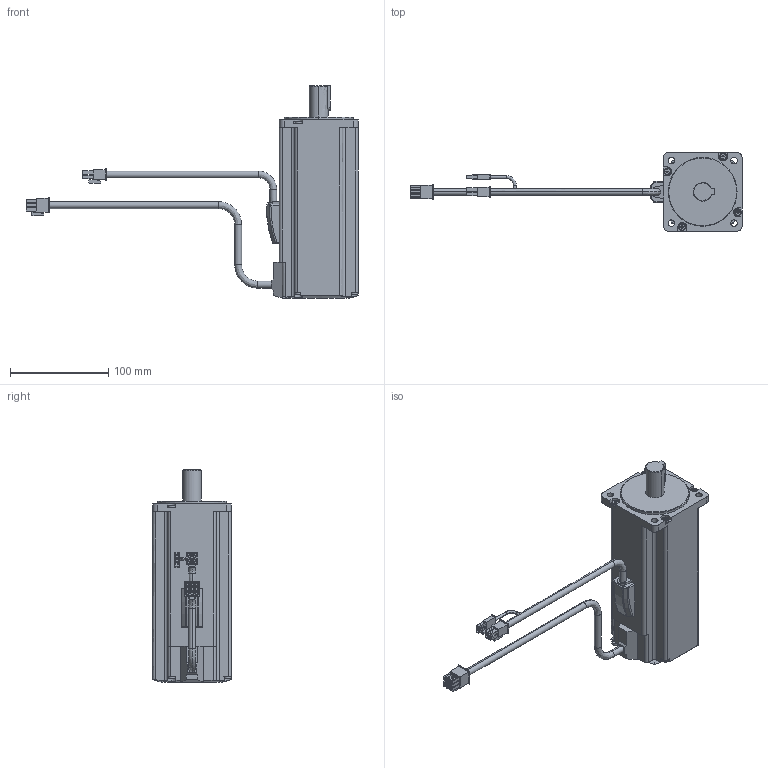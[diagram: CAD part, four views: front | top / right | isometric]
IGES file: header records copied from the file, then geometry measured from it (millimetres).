
Start section:  PTC IGES file: 10001029_rsmz-08bq-bh_brake.igs
Global section: file name: 10001029_rsmz-08bq-bh_brake.igs; native system: Pro/ENGINEER by Parametric Technology Corporation; preprocessor: 2004440; author: Administrator; organization: Unknown; date: 070829.201531; units: millimetre
Bounding box: 337.7 x 80 x 216.5 mm (x, y, z)
Volume: 1044068.7 mm3; surface area: 90702.7 mm2
Topology: 1 solids, 1 shells, 498 faces, 1264 edges, 822 vertices
Faces by surface type: bspline 358, revolution 140
